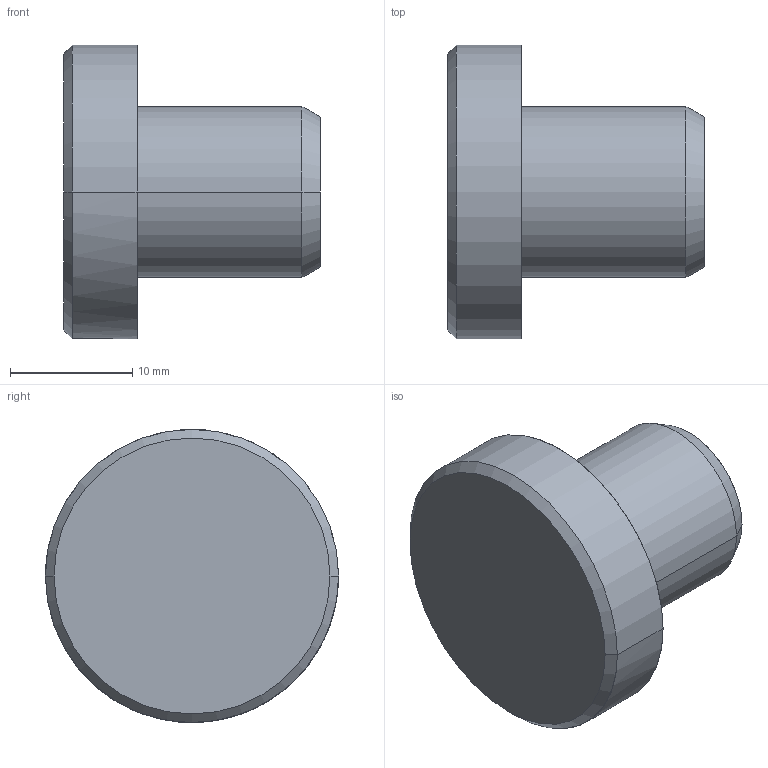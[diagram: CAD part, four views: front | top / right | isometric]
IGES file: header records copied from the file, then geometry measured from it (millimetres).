
Start section: START RECORD GO HERE.
Global section: file name: 382F-24.igs; native system: DASSAULT SYSTEMES CATIA V5 R20 - www.3ds.com; preprocessor: CATIA Version 5 Release 20 ; author: Utente; organization: NB04-ASUS; date: 20210310.200444; units: millimetre
Bounding box: 21 x 24 x 24 mm (x, y, z)
Surface area: 1954.8 mm2 (no closed solid volume)
Topology: 0 solids, 0 shells, 11 faces, 40 edges, 40 vertices
Faces by surface type: revolution 8, plane 3
